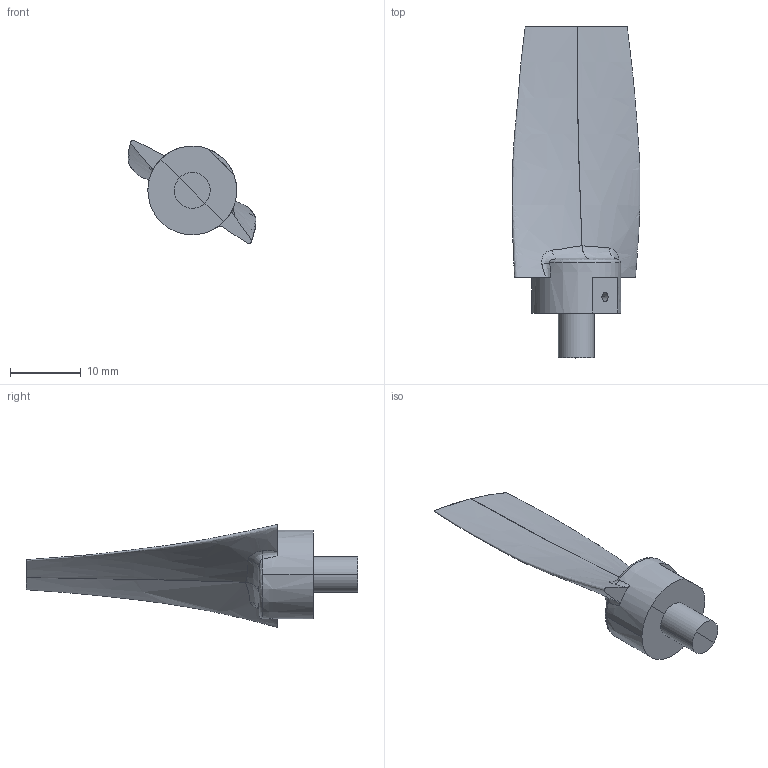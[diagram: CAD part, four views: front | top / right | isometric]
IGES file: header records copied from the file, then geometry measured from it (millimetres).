
Start section:  PTC IGES file: bladefinal.igs
Global section: file name: bladefinal.igs; native system: Pro/ENGINEER by Parametric Technology Corporation; preprocessor: 9647; author: george; date: 960417.102649; units: inch
Bounding box: 18.08 x 46.99 x 14.58 mm (x, y, z)
Surface area: 1929.8 mm2 (no closed solid volume)
Topology: 0 solids, 0 shells, 34 faces, 166 edges, 166 vertices
Faces by surface type: bspline 26, revolution 8
